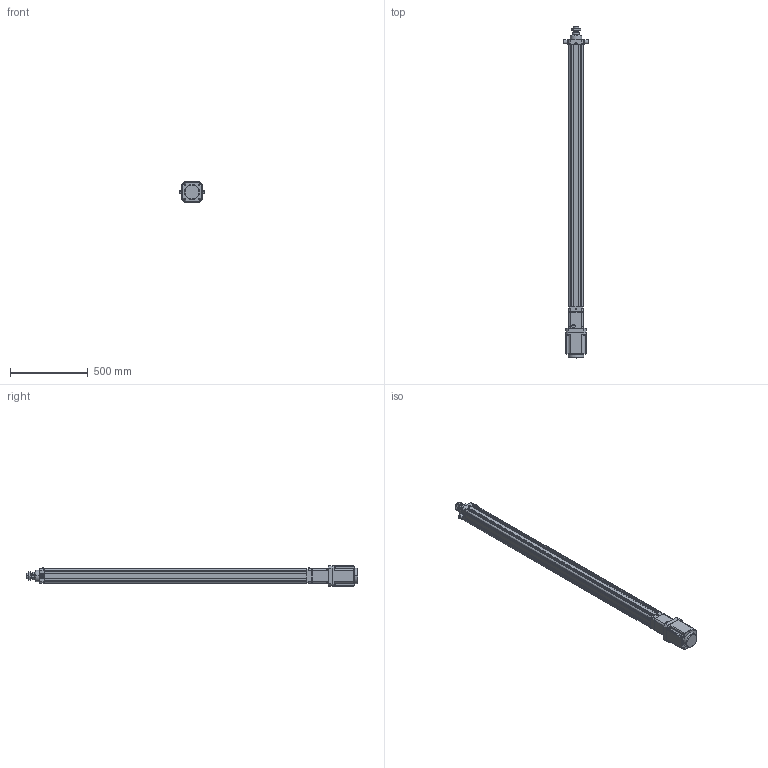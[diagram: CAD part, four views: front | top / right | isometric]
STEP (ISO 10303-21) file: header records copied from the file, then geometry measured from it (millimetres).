
FILE_DESCRIPTION((''),'2;1');
FILE_NAME('HE80-D-P_ASM','2020-05-13T',('ASUS20200'),(''),'CREO PARAMETRIC BY PTC INC, 2014190','CREO PARAMETRIC BY PTC INC, 2014190','');
FILE_SCHEMA(('CONFIG_CONTROL_DESIGN'));
Length unit declared in the file: millimetre
Products named in the file (23): HE80-D-P-001-X1; HE80-D-P-002-X1; HE80-D-P-003-X1; 30304J; YZ-M6X1; SLM-01; JDB506030; HE80-100-D-P-X1_ASM; HE80-D-009-X1; HE80-D-010-X1-130N; M10X110; SKT-20; M8X20; 130ST-M10010; JX6X6X40; TD-8; M8X40; HE80-D-P-005-X1; HE80-D-P-004-X1; HE80-D-P-008-X1; LGLM-M10-25; HE80-TC; HE80-D-P_ASM
Assembly tree (40 placements, depth 3):
  HE80-D-P_ASM
    HE80-100-D-P-X1_ASM
      HE80-D-P-001-X1
      HE80-D-P-002-X1
      HE80-D-P-003-X1
      30304J  x2
      YZ-M6X1
      SLM-01
      JDB506030
    HE80-D-009-X1
    HE80-D-010-X1-130N
    M10X110  x4
    SKT-20  x2
    M8X20  x4
    130ST-M10010
    JX6X6X40
    TD-8  x4
    M8X40  x4
    HE80-D-P-005-X1
    HE80-D-P-004-X1
    HE80-D-P-008-X1
    LGLM-M10-25  x4
    HE80-TC  x2
Bounding box: 163 x 2136 x 130.01 mm (x, y, z)
Volume: 8073595.5 mm3; surface area: 2382313 mm2
Topology: 39 solids, 64 shells, 1694 faces, 3935 edges, 2410 vertices
Faces by surface type: plane 595, cylinder 489, cone 482, torus 94, sphere 30, bspline 4
Entity records: 37920 total; most frequent: CARTESIAN_POINT 7558, DIRECTION 6724, ORIENTED_EDGE 5796, EDGE_CURVE 2951, AXIS2_PLACEMENT_3D 2626, VERTEX_POINT 1813, EDGE_LOOP 1482, VECTOR 1472
